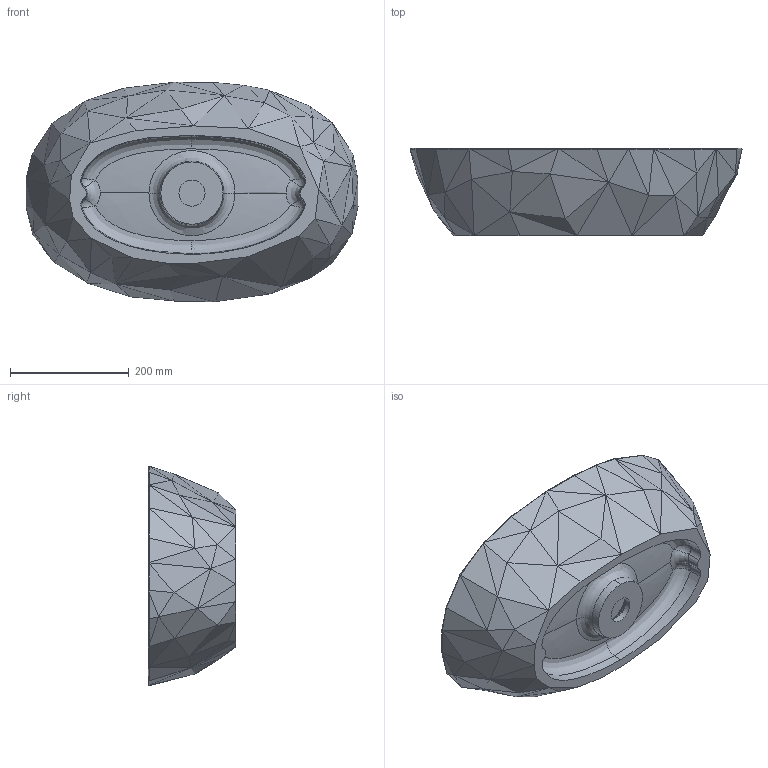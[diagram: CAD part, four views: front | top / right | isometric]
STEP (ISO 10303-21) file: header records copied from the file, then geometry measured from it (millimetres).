
FILE_DESCRIPTION (( 'STEP AP203' ), '1' );
FILE_NAME ('F7724061.STEP', '2023-02-02T17:14:43', ( '' ), ( '' ), 'SwSTEP 2.0', 'SolidWorks 2022', '' );
FILE_SCHEMA (( 'CONFIG_CONTROL_DESIGN' ));
Length unit declared in the file: millimetre
Products named in the file (1): F7724061
Bounding box: 560.08 x 147 x 370.41 mm (x, y, z)
Volume: 6038614 mm3; surface area: 587661.5 mm2
Topology: 2 solids, 2 shells, 267 faces, 608 edges, 345 vertices
Faces by surface type: plane 119, cylinder 87, bspline 32, cone 16, torus 12, sphere 1
Entity records: 25092 total; most frequent: CARTESIAN_POINT 19755, ORIENTED_EDGE 1202, DIRECTION 932, EDGE_CURVE 601, VERTEX_POINT 343, LINE 324, VECTOR 324, AXIS2_PLACEMENT_3D 304
